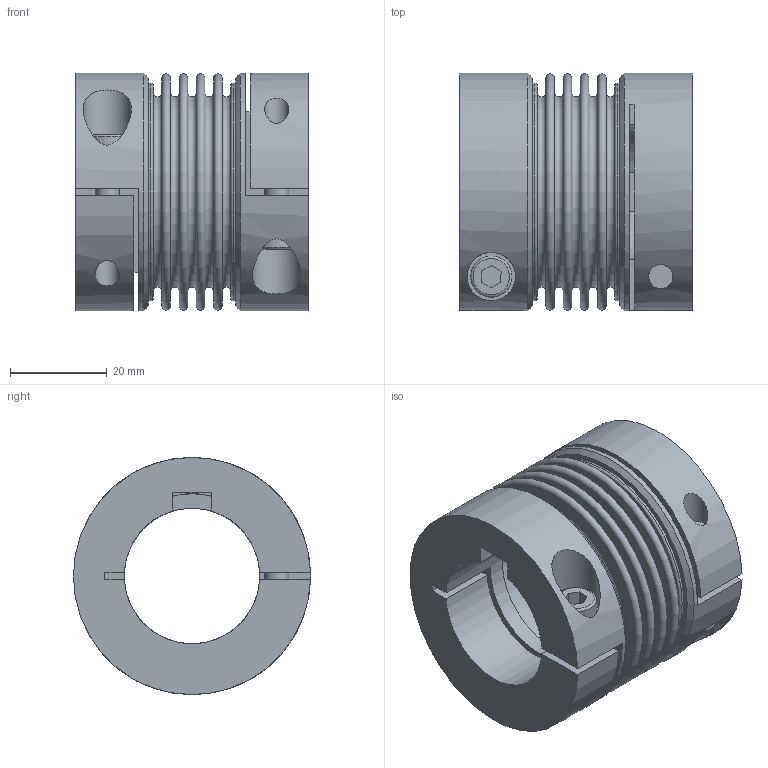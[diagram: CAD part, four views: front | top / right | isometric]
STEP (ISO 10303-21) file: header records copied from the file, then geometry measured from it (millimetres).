
FILE_DESCRIPTION(/* description */ ('STEP AP214'),/* implementation_level */ '2;1');
FILE_NAME(/* name */ 'C:\Diequa Files\DieQua Coupling\BCC\STP\BCC.15.#.#.stp',/* time_stamp */ '2018-11-20T10:55:14-06:00',/* author */ ('DiequaCAD'),/* organization */ (''),/* preprocessor_version */ 'ST-DEVELOPER v17.2',/* originating_system */ 'Autodesk Inventor 2019',/* authorisation */ ' ');
FILE_SCHEMA (('AUTOMOTIVE_DESIGN { 1 0 10303 214 3 1 1 }'));
Length unit declared in the file: millimetre
Products named in the file (1): BKC_15_28_PFN_28_PFN_54
Bounding box: 48 x 49 x 49 mm (x, y, z)
Volume: 45910.1 mm3; surface area: 23858.9 mm2
Topology: 1 solids, 1 shells, 90 faces, 224 edges, 154 vertices
Faces by surface type: plane 58, cylinder 17, torus 13, cone 2
Full cylindrical faces by diameter (mm): 5 x4, 8.5 x2, 10 x2, 34 x1, 45 x2, 49 x2
Entity records: 2945 total; most frequent: CARTESIAN_POINT 627, DIRECTION 499, ORIENTED_EDGE 448, EDGE_CURVE 224, AXIS2_PLACEMENT_3D 192, VERTEX_POINT 154, LINE 115, VECTOR 115
